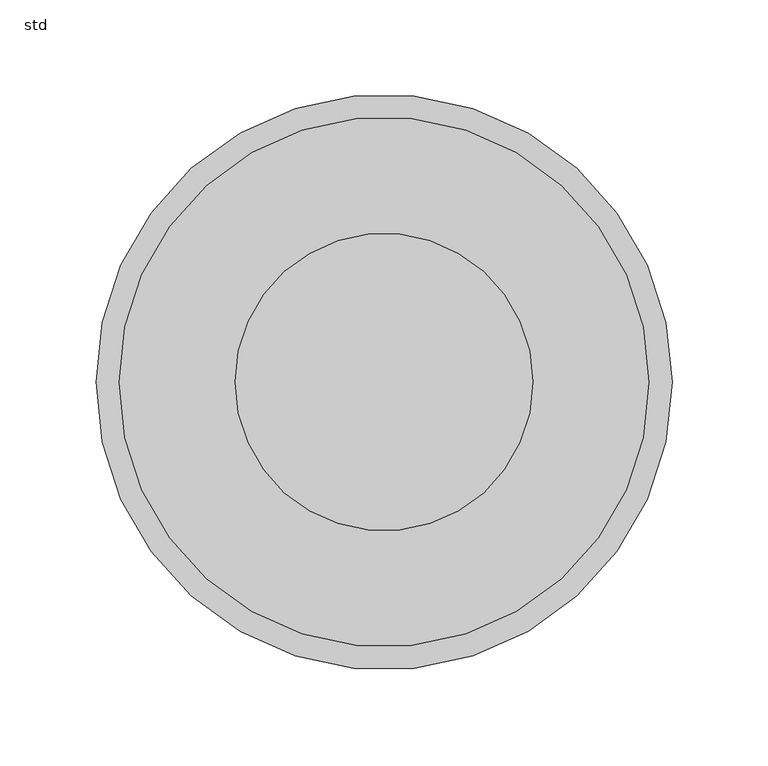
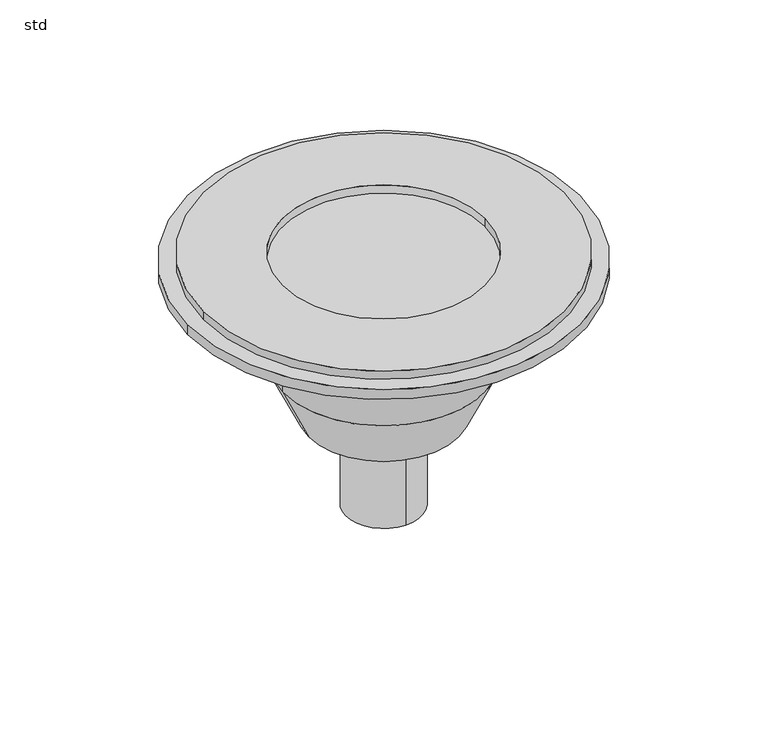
"""IFC4 building model written with IfcOpenShell, lengths in millimetres: sanitary terminal geometry, ZZZ_do_not_use_PF_CI_UN_gully body_ACO : std."""

import ifcopenshell
import ifcopenshell.guid

model = None  # the IFC model being written
_history = None  # IfcOwnerHistory: only IFC2X3 demands one
_inside = {}  # id of a spatial element -> (the spatial element, [elements in it])
_under = {}  # id of a project, library or spatial element -> (it, [spatial elements below it])
_declared = {}  # id of a project -> (the project, [libraries it declares])
_typed = {}  # id of a type object -> (the type object, [elements of that type])
_made_of = {}  # id of a material, layer set ... -> (it, [elements and type objects made of it])


def new_model(schema):
    """Start an empty IFC model of exactly this schema.

    Asked for "IFC4X3", IfcOpenShell would pick the latest addendum, in which some entities
    have other attributes; the version numbers below select the first issue.
    IFC2X3 requires an IfcOwnerHistory on every rooted entity: one is made here for all.
    """
    global model, _history
    if schema == "IFC4X3":
        model = ifcopenshell.file(schema_version=(4, 3, 0, 0))
    else:
        model = ifcopenshell.file(schema=schema)
    _inside.clear()
    _under.clear()
    _declared.clear()
    _typed.clear()
    _made_of.clear()
    _history = None
    if model.schema == "IFC2X3":
        org = make("IfcOrganization", Name="unknown")
        user = make(
            "IfcPersonAndOrganization",
            ThePerson=make("IfcPerson", FamilyName="unknown"),
            TheOrganization=org,
        )
        app = make(
            "IfcApplication",
            ApplicationDeveloper=org,
            Version="unknown",
            ApplicationFullName="unknown",
            ApplicationIdentifier="unknown",
        )
        _history = make(
            "IfcOwnerHistory",
            OwningUser=user,
            OwningApplication=app,
            ChangeAction="ADDED",
            CreationDate=0,
        )
    return model


def make(cls, **values):
    """One entity of the class cls with the attributes given. An attribute that is None is left unset."""
    return model.create_entity(
        cls, **{name: value for name, value in values.items() if value is not None}
    )


def rooted(cls, **values):
    """An entity with a GlobalId (a new one), such as an element, a storey or a relation."""
    return make(cls, GlobalId=ifcopenshell.guid.new(), OwnerHistory=_history, **values)


def si_unit(unit_type, name, prefix=None):
    """IfcSIUnit, for example si_unit("LENGTHUNIT", "METRE", prefix="MILLI")."""
    return make("IfcSIUnit", UnitType=unit_type, Prefix=prefix, Name=name)


def assignment(units):
    """IfcUnitAssignment: the units of a project."""
    return None if units is None else make("IfcUnitAssignment", Units=units)


def point(xyz):
    """IfcCartesianPoint."""
    return None if xyz is None else make("IfcCartesianPoint", Coordinates=xyz)


def direction(xyz):
    """IfcDirection."""
    return None if xyz is None else make("IfcDirection", DirectionRatios=xyz)


def frame(location, z_axis=None, x_axis=None):
    """IfcAxis2Placement3D, a coordinate frame: its origin and axes. An axis left out is left unset."""
    return make(
        "IfcAxis2Placement3D",
        Location=point(location),
        Axis=direction(z_axis),
        RefDirection=direction(x_axis),
    )


def frame_2d(location, x_axis=None):
    """IfcAxis2Placement2D, a coordinate frame in the plane: its origin and x axis."""
    return make(
        "IfcAxis2Placement2D", Location=point(location), RefDirection=direction(x_axis)
    )


def origin():
    """The frame at (0, 0, 0) with its axes left unset."""
    return frame((0.0, 0.0, 0.0))


def origin_with_axes():
    """The frame at (0, 0, 0) with the z axis (0, 0, 1) and the x axis (1, 0, 0) written out."""
    return frame((0.0, 0.0, 0.0), z_axis=(0.0, 0.0, 1.0), x_axis=(1.0, 0.0, 0.0))


def origin_2d():
    """The frame at (0, 0) in the plane with its x axis left unset."""
    return frame_2d((0.0, 0.0))


def place(relative_to, where):
    """IfcLocalPlacement: puts the frame where relative to a parent placement (None: the world)."""
    return make(
        "IfcLocalPlacement", PlacementRelTo=relative_to, RelativePlacement=where
    )


def context(
    kind, dimensions, precision=None, world=None, true_north=None, identifier=None
):
    """IfcGeometricRepresentationContext, for example the 3D "Model" context."""
    return make(
        "IfcGeometricRepresentationContext",
        ContextIdentifier=identifier,
        ContextType=kind,
        CoordinateSpaceDimension=dimensions,
        Precision=precision,
        WorldCoordinateSystem=world,
        TrueNorth=true_north,
    )


def project(units=None, contexts=None):
    """IfcProject with its units and contexts."""
    return rooted(
        "IfcProject",
        Name="project",
        RepresentationContexts=contexts,
        UnitsInContext=assignment(units),
    )


def spatial(cls, under=None, at=None, **own):
    """A site, building, storey or space (cls), placed at a placement, below another one or the project."""
    s = rooted(cls, ObjectPlacement=at, **own)
    if under is not None:
        _under.setdefault(under.id(), (under, []))[1].append(s)
    return s


def polyline(points):
    """IfcPolyline through the points."""
    return make("IfcPolyline", Points=[point(p) for p in points])


def circle_curve(where, radius):
    """IfcCircle in the frame where."""
    return make("IfcCircle", Position=where, Radius=radius)


def trimmed(basis, trim1, trim2, sense, master):
    """IfcTrimmedCurve: the piece of a basis curve between two trims."""
    return make(
        "IfcTrimmedCurve",
        BasisCurve=basis,
        Trim1=trim1,
        Trim2=trim2,
        SenseAgreement=sense,
        MasterRepresentation=master,
    )


def segment(curve, same_sense, transition):
    """IfcCompositeCurveSegment."""
    return make(
        "IfcCompositeCurveSegment",
        Transition=transition,
        SameSense=same_sense,
        ParentCurve=curve,
    )


def composite_curve(segments, self_intersect=None):
    """IfcCompositeCurve: segments joined end to end."""
    return make("IfcCompositeCurve", Segments=segments, SelfIntersect=self_intersect)


def outline(outer, holes=None, kind="AREA"):
    """IfcArbitraryClosedProfileDef: a profile drawn as a closed curve; with holes, ...WithVoids."""
    if holes is None:
        return make("IfcArbitraryClosedProfileDef", ProfileType=kind, OuterCurve=outer)
    return make(
        "IfcArbitraryProfileDefWithVoids",
        ProfileType=kind,
        OuterCurve=outer,
        InnerCurves=holes,
    )


def extrude(swept, where, along, depth):
    """IfcExtrudedAreaSolid: the profile swept, set in the frame where, extruded along a direction by depth."""
    return make(
        "IfcExtrudedAreaSolid",
        SweptArea=swept,
        Position=where,
        ExtrudedDirection=direction(along),
        Depth=depth,
    )


def shape(context_of_items, identifier, shape_type, items):
    """IfcShapeRepresentation: the items that make up one representation, for example the "Body"."""
    return make(
        "IfcShapeRepresentation",
        ContextOfItems=context_of_items,
        RepresentationIdentifier=identifier,
        RepresentationType=shape_type,
        Items=items,
    )


def source(mapping_origin, context_of_items, identifier, shape_type, items):
    """IfcRepresentationMap: a shape defined once, which mapped items show again and again."""
    return make(
        "IfcRepresentationMap",
        MappingOrigin=mapping_origin,
        MappedRepresentation=shape(context_of_items, identifier, shape_type, items),
    )


def transform(
    local_origin,
    x_axis=None,
    y_axis=None,
    z_axis=None,
    scale=None,
    scale2=None,
    scale3=None,
    uniform=True,
):
    """IfcCartesianTransformationOperator3D, or its non-uniform kind. x_axis, y_axis, z_axis: its Axis1, 2, 3."""
    if uniform:
        return make(
            "IfcCartesianTransformationOperator3D",
            Axis1=direction(x_axis),
            Axis2=direction(y_axis),
            LocalOrigin=point(local_origin),
            Scale=scale,
            Axis3=direction(z_axis),
        )
    return make(
        "IfcCartesianTransformationOperator3DnonUniform",
        Axis1=direction(x_axis),
        Axis2=direction(y_axis),
        LocalOrigin=point(local_origin),
        Scale=scale,
        Axis3=direction(z_axis),
        Scale2=scale2,
        Scale3=scale3,
    )


def mapped(mapping_source, mapping_target):
    """IfcMappedItem: shows the shape of a source again, moved by a transform."""
    return make(
        "IfcMappedItem", MappingSource=mapping_source, MappingTarget=mapping_target
    )


def made_of(thing, what):
    """Note that an element or type object is made of a material, layer set ...; save() writes the relation."""
    if what is not None:
        _made_of.setdefault(what.id(), (what, []))[1].append(thing)
    return thing


def element(
    cls,
    number,
    at=None,
    inside=None,
    cuts=None,
    type_object=None,
    material=None,
    context=None,
    identifier="Body",
    shape_type=None,
    held_by="IfcProductDefinitionShape",
    body=None,
    shapes=None,
    **own,
):
    """One element of the class cls, such as IfcWall. Its Tag is "e" and its number.

    at: its placement. inside: the storey or other place that contains it. cuts: it is an
    opening in that element (IfcRelVoidsElement). A single representation is given by context,
    identifier, shape_type and body (its items); several are given by shapes. held_by: the class
    of the entity that holds the representations. save() writes the other relations.
    """
    e = rooted(cls, Tag="e%d" % number, ObjectPlacement=at, **own)
    if body is not None:
        shapes = [shape(context, identifier, shape_type, body)]
    if shapes is not None:
        e.Representation = make(held_by, Representations=shapes)
    if inside is not None:
        _inside.setdefault(inside.id(), (inside, []))[1].append(e)
    if cuts is not None:
        rooted(
            "IfcRelVoidsElement", RelatingBuildingElement=cuts, RelatedOpeningElement=e
        )
    if type_object is not None:
        _typed.setdefault(type_object.id(), (type_object, []))[1].append(e)
    return made_of(e, material)


def aggregate(whole, parts):
    """IfcRelAggregates: a whole, such as a stair, and the parts it consists of."""
    return rooted("IfcRelAggregates", RelatingObject=whole, RelatedObjects=parts)


def save(model, path):
    """Write the relations noted so far, then the file.

    IfcRelAggregates (storeys below a building ...), IfcRelContainedInSpatialStructure (elements
    in a storey), IfcRelDefinesByType, IfcRelAssociatesMaterial and IfcRelDeclares: one each for
    every whole, place, type object, material and project.
    """
    for whole, parts in _under.values():
        aggregate(whole, parts)
    for where, things in _inside.values():
        rooted(
            "IfcRelContainedInSpatialStructure",
            RelatedElements=things,
            RelatingStructure=where,
        )
    for kind, things in _typed.values():
        rooted("IfcRelDefinesByType", RelatedObjects=things, RelatingType=kind)
    for what, things in _made_of.values():
        rooted("IfcRelAssociatesMaterial", RelatedObjects=things, RelatingMaterial=what)
    for by, libraries in _declared.values():
        rooted("IfcRelDeclares", RelatingContext=by, RelatedDefinitions=libraries)
    model.write(path)


def plane_surface(at):
    """IfcPlane: the flat surface through the origin of the frame at, square to its z axis."""
    return make("IfcPlane", Position=at)


def cylinder_surface(at, radius):
    """IfcCylindricalSurface: all points at the distance radius from the z axis of the frame at."""
    return make("IfcCylindricalSurface", Position=at, Radius=radius)


def revolved_surface(curve, axis_point, axis_direction):
    """IfcSurfaceOfRevolution: the curve turned about the line through axis_point along axis_direction."""
    return make(
        "IfcSurfaceOfRevolution",
        SweptCurve=make("IfcArbitraryOpenProfileDef", ProfileType="CURVE", Curve=curve),
        AxisPosition=make("IfcAxis1Placement", Location=point(axis_point), Axis=direction(axis_direction)),
    )


def advanced_brep(points, edges, surfaces, faces):
    """IfcAdvancedBrep: a solid bounded by faces that lie on surfaces and meet in shared edges.

    An edge is (start, end): straight between two places in points (the first is 0);
    or (start, end, curve); or (start, end, curve, False) where it runs against its curve.
    A face is (place in surfaces, loops), or (place, loops, False) where it looks against
    its surface's normal. A loop lists edges by number (the first is 1), with a minus sign
    where the edge is run from its end to its start. The first loop is the outer one.
    """
    corners = [point(p) for p in points]
    vertices = [make("IfcVertexPoint", VertexGeometry=c) for c in corners]
    made = []
    for start, end, *more in edges:
        made.append(
            make(
                "IfcEdgeCurve",
                EdgeStart=vertices[start],
                EdgeEnd=vertices[end],
                EdgeGeometry=more[0] if more else make("IfcPolyline", Points=[corners[start], corners[end]]),
                SameSense=more[1] if len(more) > 1 else True,
            )
        )
    hull = []
    for where, loops, *sense in faces:
        bounds = []
        for j, loop in enumerate(loops):
            ring = [make("IfcOrientedEdge", EdgeElement=made[abs(k) - 1], Orientation=k > 0) for k in loop]
            bounds.append(
                make(
                    "IfcFaceOuterBound" if j == 0 else "IfcFaceBound",
                    Bound=make("IfcEdgeLoop", EdgeList=ring),
                    Orientation=True,
                )
            )
        hull.append(make("IfcAdvancedFace", Bounds=bounds, FaceSurface=surfaces[where], SameSense=sense[0] if sense else True))
    return make("IfcAdvancedBrep", Outer=make("IfcClosedShell", CfsFaces=hull))


def std_375e1439(model_context):
    return source(origin(), model_context, "Body", "SolidModel", [
        extrude(outline(composite_curve([segment(trimmed(circle_curve(origin_2d(), 138.0), [point((-138.0, 0.0))], [point((138.0, 0.0))], False, "CARTESIAN"), True, "CONTINUOUS"), segment(trimmed(circle_curve(origin_2d(), 138.0), [point((138.0, 0.0))], [point((-138.0, 0.0))], False, "CARTESIAN"), True, "CONTINUOUS")], self_intersect=False), holes=[composite_curve([segment(trimmed(circle_curve(origin_2d(), 77.5), [point((-77.5, 0.0))], [point((77.5, 0.0))], True, "CARTESIAN"), True, "CONTINUOUS"), segment(trimmed(circle_curve(origin_2d(), 77.5), [point((77.5, 0.0))], [point((-77.5, 0.0))], True, "CARTESIAN"), True, "CONTINUOUS")], self_intersect=False)]), origin_with_axes(), (0.0, 0.0, 1.0), 6.5),
        advanced_brep(
        [(57.4487707, 0.0, -123.0), (-57.4487707, 0.0, -123.0), (-77.5, 0.0, -80.0), (77.5, 0.0, -80.0), (29.0, 0.0, -123.0), (0.0, 29.0, -123.0), (-29.0, 0.0, -123.0), (0.0, -29.0, -123.0), (-77.5, 0.0, -8.0), (77.5, 0.0, -8.0), (0.0, -29.0, -197.0), (0.0, 29.0, -197.0), (-150.0, 0.0, -8.0), (150.0, 0.0, -8.0), (-150.0, 0.0, 0.0), (150.0, 0.0, 0.0)],
        [
            (0, 1, circle_curve(frame((0.0, 0.0, -123.0), z_axis=(0.0, 0.0, 1.0), x_axis=(-1.0, 0.0, 0.0)), 57.4487707)),
            (1, 2),
            (2, 3, circle_curve(frame((0.0, 0.0, -80.0), z_axis=(0.0, 0.0, -1.0), x_axis=(-1.0, 0.0, 0.0)), 77.5)),
            (3, 0),
            (1, 0, circle_curve(frame((0.0, 0.0, -123.0), z_axis=(0.0, 0.0, 1.0), x_axis=(-1.0, 0.0, 0.0)), 57.4487707)),
            (3, 2, circle_curve(frame((0.0, 0.0, -80.0), z_axis=(0.0, 0.0, -1.0), x_axis=(-1.0, 0.0, 0.0)), 77.5)),
            (0, 4),
            (4, 5, circle_curve(frame((0.0, 0.0, -123.0), z_axis=(0.0, 0.0, 1.0), x_axis=(0.0, 1.0, 0.0)), 29.0)),
            (5, 6, circle_curve(frame((0.0, 0.0, -123.0), z_axis=(0.0, 0.0, 1.0), x_axis=(0.0, 1.0, 0.0)), 29.0)),
            (6, 1),
            (6, 7, circle_curve(frame((0.0, 0.0, -123.0), z_axis=(0.0, 0.0, 1.0), x_axis=(0.0, 1.0, 0.0)), 29.0)),
            (7, 4, circle_curve(frame((0.0, 0.0, -123.0), z_axis=(0.0, 0.0, 1.0), x_axis=(0.0, 1.0, 0.0)), 29.0)),
            (8, 2),
            (3, 9),
            (9, 8, circle_curve(frame((0.0, 0.0, -8.0), z_axis=(0.0, 0.0, -1.0), x_axis=(1.0, 0.0, 0.0)), 77.5)),
            (8, 9, circle_curve(frame((0.0, 0.0, -8.0), z_axis=(0.0, 0.0, -1.0), x_axis=(1.0, 0.0, 0.0)), 77.5)),
            (10, 11, circle_curve(frame((0.0, 0.0, -197.0), z_axis=(0.0, 0.0, -1.0), x_axis=(0.0, 1.0, 0.0)), 29.0)),
            (11, 10, circle_curve(frame((0.0, 0.0, -197.0), z_axis=(0.0, 0.0, -1.0), x_axis=(0.0, 1.0, 0.0)), 29.0)),
            (10, 7),
            (5, 11),
            (12, 13, circle_curve(frame((0.0, 0.0, -8.0), z_axis=(0.0, 0.0, -1.0), x_axis=(1.0, 0.0, 0.0)), 150.0)),
            (13, 12, circle_curve(frame((0.0, 0.0, -8.0), z_axis=(0.0, 0.0, -1.0), x_axis=(1.0, 0.0, 0.0)), 150.0)),
            (14, 15, circle_curve(origin_with_axes(), 150.0)),
            (15, 14, circle_curve(origin_with_axes(), 150.0)),
            (13, 15),
            (14, 12),
        ],
        [
            revolved_surface(polyline([(-77.5, 0.0, -80.0), (-57.4487707, 0.0, -123.0)]), (0.0, 0.0, -77.7894115), (0.0, 0.0, -1.0)),
            plane_surface(frame((0.0, 0.0, -123.0), z_axis=(0.0, 0.0, -1.0), x_axis=(-1.0, 0.0, 0.0))),
            cylinder_surface(frame((0.0, 0.0, -80.0), z_axis=(0.0, 0.0, 1.0), x_axis=(1.0, 0.0, 0.0)), 77.5),
            plane_surface(frame((0.0, 29.0, -197.0), z_axis=(0.0, 0.0, -1.0), x_axis=(1.0, 0.0, 0.0))),
            cylinder_surface(frame((0.0, 0.0, -123.0), z_axis=(0.0, 0.0, -1.0), x_axis=(0.0, 1.0, 0.0)), 29.0),
            plane_surface(frame((150.0, 0.0, -8.0), z_axis=(0.0, 0.0, -1.0), x_axis=(0.0, -1.0, 0.0))),
            plane_surface(frame((150.0, 0.0, 0.0), z_axis=(0.0, 0.0, 1.0), x_axis=(0.0, 1.0, 0.0))),
            cylinder_surface(frame((0.0, 0.0, -8.0), z_axis=(0.0, 0.0, 1.0), x_axis=(1.0, 0.0, 0.0)), 150.0),
        ],
        [
            (0, [[1, 2, 3, 4]]),
            (0, [[-2, 5, -4, 6]]),
            (1, [[-1, 7, 8, 9, 10]]),
            (1, [[-5, -10, 11, 12, -7]]),
            (2, [[13, -6, 14, 15]]),
            (2, [[-13, 16, -14, -3]]),
            (3, [[17, 18]]),
            (4, [[-17, 19, -11, -9, 20]]),
            (4, [[-18, -20, -8, -12, -19]]),
            (5, [[21, 22], [-15, -16]]),
            (6, [[23, 24]]),
            (7, [[-22, 25, -23, 26]]),
            (7, [[-21, -26, -24, -25]]),
        ],
    ),
    ])


if __name__ == "__main__":
    model = new_model("IFC4")
    model_context = context("Model", 3, world=origin())
    ifc_project = project(units=[si_unit("LENGTHUNIT", "METRE", prefix="MILLI")], contexts=[model_context])
    site = spatial("IfcSite", under=ifc_project)
    building = spatial("IfcBuilding", under=site)
    placement = place(None, origin())
    std_shape = std_375e1439(model_context)
    element("IfcSanitaryTerminal", 1, ObjectType="ZZZ_do_not_use_PF_CI_UN_gully body_ACO : std", at=placement, inside=building, context=model_context, shape_type="MappedRepresentation", body=[
        mapped(std_shape, transform((0.0, 0.0, 0.0), x_axis=(1.0, 0.0, 0.0), y_axis=(0.0, 1.0, 0.0), z_axis=(0.0, 0.0, 1.0))),
    ])
    save(model, "model.ifc")
